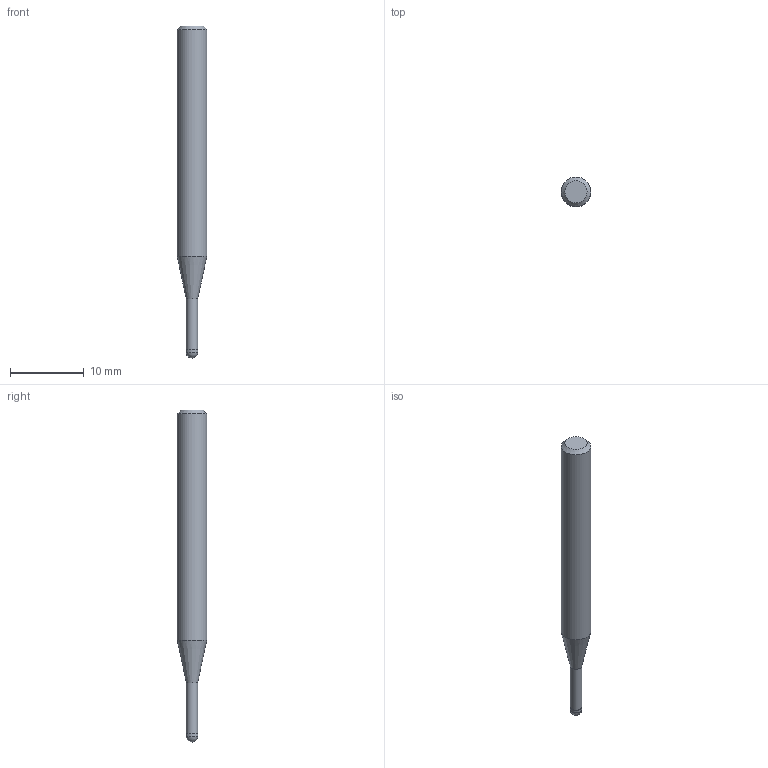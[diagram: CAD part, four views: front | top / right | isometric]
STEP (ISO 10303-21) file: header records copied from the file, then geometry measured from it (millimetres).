
FILE_DESCRIPTION((''),'2;1');
FILE_NAME('C:\Users\nsx150\AppData\Local\Temp\Mastercam 2021\ARV7HD45SN\TEMP.step','2023-06-13T16:36:48',(''),(''),'STEP Write','Mastercam 2021 ... CNC Software, Inc.','');
FILE_SCHEMA(('AUTOMOTIVE_DESIGN'));
Length unit declared in the file: millimetre
Products named in the file (1): None
Bounding box: 4 x 4 x 45 mm (x, y, z)
Volume: 442.9 mm3; surface area: 495.5 mm2
Topology: 2 solids, 2 shells, 9 faces, 14 edges, 8 vertices
Faces by surface type: plane 3, cylinder 3, cone 2, sphere 1
Full cylindrical faces by diameter (mm): 1.55 x1, 1.6 x1, 4 x1
Entity records: 211 total; most frequent: DIRECTION 36, CARTESIAN_POINT 25, AXIS2_PLACEMENT_3D 18, ORIENTED_EDGE 14, EDGE_LOOP 14, STYLED_ITEM 12, ADVANCED_FACE 9, FACE_BOUND 8
